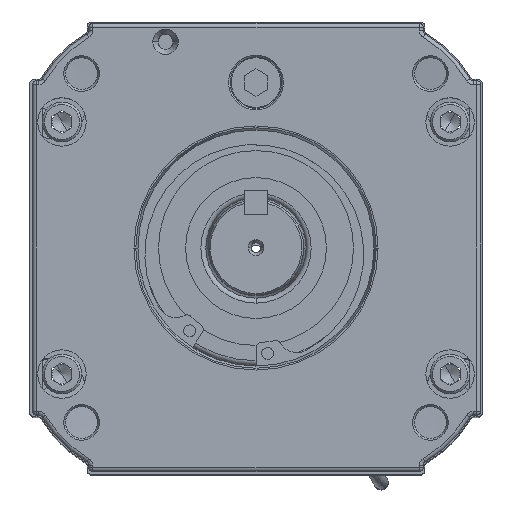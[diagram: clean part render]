
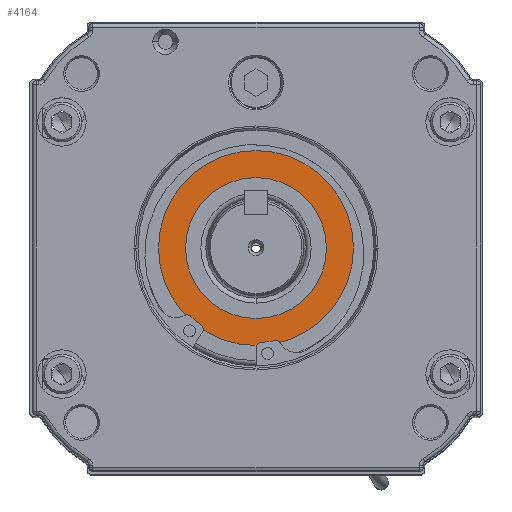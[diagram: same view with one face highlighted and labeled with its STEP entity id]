
A CAD part, top view. The second image highlights one B-rep face of the part: STEP entity #4164.
In plain terms, the highlighted planar face has unit normal (0, 0, 1).
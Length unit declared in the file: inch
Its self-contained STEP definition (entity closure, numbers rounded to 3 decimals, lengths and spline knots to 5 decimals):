
#452 = ORIENTED_EDGE ( 'NONE', *, *, #19419, .T. ) ;
#1862 = DIRECTION ( 'NONE',  ( 0., 1., 0. ) ) ;
#2086 = DIRECTION ( 'NONE',  ( 0., 1., 0. ) ) ;
#4164 = ADVANCED_FACE ( 'NONE', ( #28625, #16533 ), #28205, .F. ) ;
#5785 = CIRCLE ( 'NONE', #27039, 0.55315 ) ;
#5792 = CIRCLE ( 'NONE', #13884, 0.55315 ) ;
#8224 = CARTESIAN_POINT ( 'NONE',  ( 0., 0., 4.71425 ) ) ;
#8706 = AXIS2_PLACEMENT_3D ( 'NONE', #30977, #16498, #1862 ) ;
#8775 = CARTESIAN_POINT ( 'NONE',  ( 0., -0.76575, 4.71425 ) ) ;
#9985 = DIRECTION ( 'NONE',  ( 0., 0., -1. ) ) ;
#10401 = CARTESIAN_POINT ( 'NONE',  ( 0., 0.76575, 4.71425 ) ) ;
#10677 = DIRECTION ( 'NONE',  ( 0., 1., 0. ) ) ;
#13298 = CARTESIAN_POINT ( 'NONE',  ( 0., 0., 4.71425 ) ) ;
#13884 = AXIS2_PLACEMENT_3D ( 'NONE', #31197, #16722, #2086 ) ;
#14519 = CIRCLE ( 'NONE', #30521, 0.76575 ) ;
#15729 = DIRECTION ( 'NONE',  ( 0., 1., 0. ) ) ;
#16498 = DIRECTION ( 'NONE',  ( 0., 0., -1. ) ) ;
#16527 = VERTEX_POINT ( 'NONE', #29642 ) ;
#16533 = FACE_BOUND ( 'NONE', #29483, .T. ) ;
#16595 = VERTEX_POINT ( 'NONE', #10401 ) ;
#16722 = DIRECTION ( 'NONE',  ( 0., 0., -1. ) ) ;
#17863 = VERTEX_POINT ( 'NONE', #8775 ) ;
#18068 = CIRCLE ( 'NONE', #24037, 0.76575 ) ;
#18865 = ORIENTED_EDGE ( 'NONE', *, *, #18954, .F. ) ;
#18954 = EDGE_CURVE ( 'NONE', #17863, #16595, #18068, .T. ) ;
#19419 = EDGE_CURVE ( 'NONE', #16527, #29922, #5785, .T. ) ;
#19920 = EDGE_CURVE ( 'NONE', #29922, #16527, #5792, .T. ) ;
#20199 = EDGE_CURVE ( 'NONE', #16595, #17863, #14519, .T. ) ;
#23239 = EDGE_LOOP ( 'NONE', ( #18865, #24353 ) ) ;
#24037 = AXIS2_PLACEMENT_3D ( 'NONE', #8224, #25249, #10677 ) ;
#24353 = ORIENTED_EDGE ( 'NONE', *, *, #20199, .F. ) ;
#24569 = CARTESIAN_POINT ( 'NONE',  ( 0., 0., 4.71425 ) ) ;
#25249 = DIRECTION ( 'NONE',  ( 0., 0., -1. ) ) ;
#26487 = CARTESIAN_POINT ( 'NONE',  ( 0., -0.55315, 4.71425 ) ) ;
#26987 = DIRECTION ( 'NONE',  ( 0., 1., 0. ) ) ;
#27039 = AXIS2_PLACEMENT_3D ( 'NONE', #24569, #9985, #26987 ) ;
#28197 = ORIENTED_EDGE ( 'NONE', *, *, #19920, .T. ) ;
#28205 = PLANE ( 'NONE',  #8706 ) ;
#28625 = FACE_OUTER_BOUND ( 'NONE', #23239, .T. ) ;
#29483 = EDGE_LOOP ( 'NONE', ( #28197, #452 ) ) ;
#29642 = CARTESIAN_POINT ( 'NONE',  ( 0., 0.55315, 4.71425 ) ) ;
#29922 = VERTEX_POINT ( 'NONE', #26487 ) ;
#30225 = DIRECTION ( 'NONE',  ( 0., 0., -1. ) ) ;
#30521 = AXIS2_PLACEMENT_3D ( 'NONE', #13298, #30225, #15729 ) ;
#30977 = CARTESIAN_POINT ( 'NONE',  ( 0.55315, 0., 4.71425 ) ) ;
#31197 = CARTESIAN_POINT ( 'NONE',  ( 0., 0., 4.71425 ) ) ;
